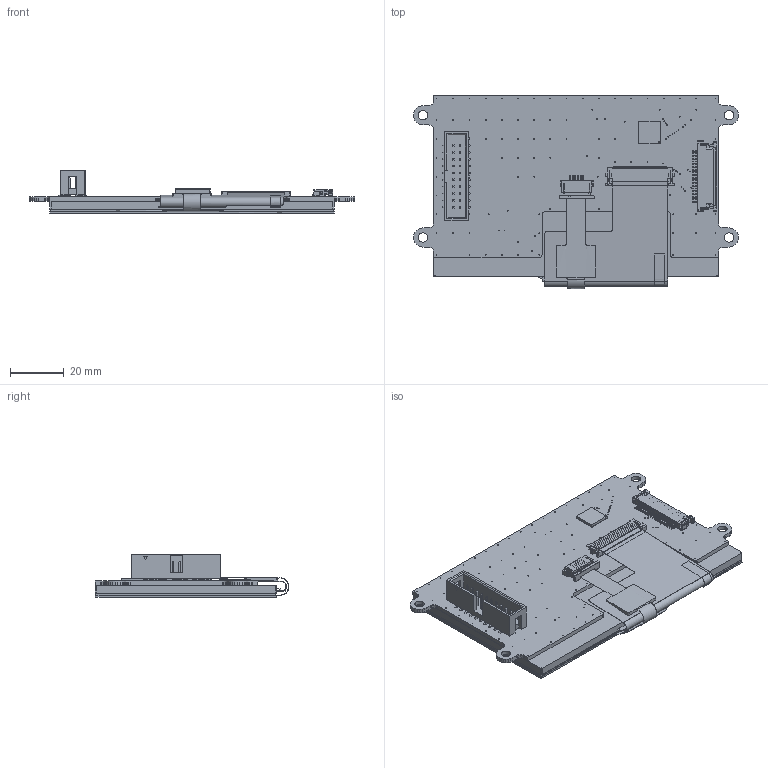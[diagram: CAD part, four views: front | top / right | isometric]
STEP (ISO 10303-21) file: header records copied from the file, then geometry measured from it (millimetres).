
FILE_DESCRIPTION (( 'STEP AP214' ), '1' );
FILE_NAME ('NHD-4.3-480272EF-EVE2-CTP.STEP', '2017-11-16T20:51:31', ( '' ), ( '' ), 'SwSTEP 2.0', 'SolidWorks 2017', '' );
FILE_SCHEMA (( 'AUTOMOTIVE_DESIGN' ));
Length unit declared in the file: millimetre
Products named in the file (9): NHD-4.3C-FT813 Controller Board; PQFN50P800X800X100-56N; MOLEX40; MOLEX6; MOLEX20TC; IDC; NHD_4_3C__11092016_02-08-16; NHD-4.3-480272EF-EVE2-CTP; NHD-4.3-480272EF-ASXN#-CTP
Assembly tree (8 placements, depth 3):
  NHD-4.3-480272EF-EVE2-CTP
    NHD-4.3C-FT813 Controller Board
      NHD_4_3C__11092016_02-08-16
      IDC
      MOLEX20TC
      MOLEX6
      MOLEX40
      PQFN50P800X800X100-56N
    NHD-4.3-480272EF-ASXN#-CTP
Bounding box: 120.6 x 71.8 x 15.93 mm (x, y, z)
Volume: 10964.6 mm3; surface area: 44933.9 mm2
Topology: 9 solids, 14 shells, 4850 faces, 14447 edges, 9385 vertices
Faces by surface type: plane 3909, cylinder 827, cone 101, bspline 13
Entity records: 177183 total; most frequent: CARTESIAN_POINT 30259, ORIENTED_EDGE 28768, DIRECTION 25562, EDGE_CURVE 14403, VECTOR 12446, LINE 12446, VERTEX_POINT 9385, AXIS2_PLACEMENT_3D 6558
